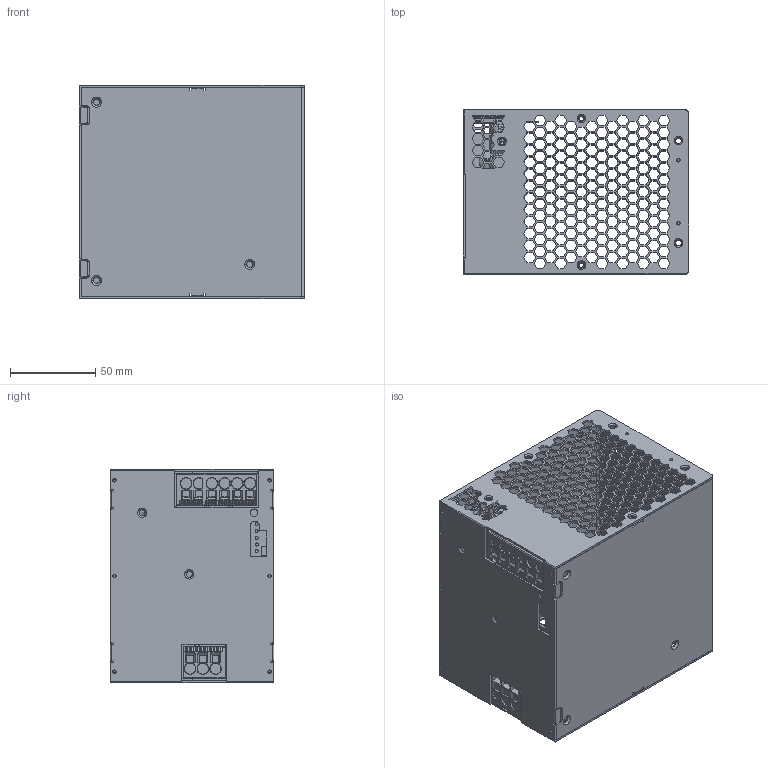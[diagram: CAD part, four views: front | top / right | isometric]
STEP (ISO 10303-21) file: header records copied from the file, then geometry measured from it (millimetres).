
FILE_DESCRIPTION(('Creo Elements/Direct Modeling STEP Export'),'2;1');
FILE_NAME('XDR-960PI.stp','2025-12-17T11:05:24',(''),(''),'Creo Elements/Direct Modeling STEP processor for AP214 (Solid Model)','Creo Elements/Direct Modeling 19.0G 27-Nov-2017 (C) Parametric Technology GmbH','');
FILE_SCHEMA(('AUTOMOTIVE_DESIGN { 1 0 10303 214 1 1 1 1 }'));
Length unit declared in the file: millimetre
Products named in the file (191): BOARD.PRT; MPX410H-7508033701_______3D_2_1.PRT; MPX410H-7508033701_______3D_2_2.PRT; MPX410H-7508033701_______3D_2_3.PRT; MPX410H-7508033701_______3D_202.ASM; TB1.ASM; EXTRUDED-62456.PRT; 990316272.ASM; EXTRUDED-62828.PRT; 990316432.ASM; EXTRUDED-63200.PRT; 990314032.ASM.6; D103.ASM; 2CUX-DBV-5_SOT23-5_.PRT; U104.ASM; 788750152_1.PRT; 788750152_2.PRT; 788750152_3.PRT; 788750152_4.PRT; 788750152.ASM; R137.ASM; 788754864_1.PRT; 788754864_2.PRT; 788754864_3.PRT; 788754864_4.PRT; 788754864.ASM; R128.ASM; R127.ASM; 788750304_1.PRT; 788750304_2.PRT; 788750304_3.PRT; 788750304_4.PRT; 788750304.ASM; R126.ASM; 788754712_1.PRT; 788754712_2.PRT; 788754712_3.PRT; 788754712_4.PRT; 788754712.ASM; R125.ASM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
Assembly tree (255 placements, depth 6):
  PI
    MPX410H-7508043701_20241017.PRT.1.1.1
    XDR-960CASE.1
      NSDR-960机壳.stp
        装配1
          SDR-120_-___.stp
            上盖-20241127
          下盖
            下盖-L20241127
            下盖-R20241127
    XDR-960API-R1X.step
      PCB.ASM
        CN3.ASM
          990313712.ASM.9  x3
            EXTRUDED-337676.PRT
          990313872.ASM.10  x3
            EXTRUDED-338048.PRT
          990313552.ASM.4  x3
            EXTRUDED-336982.PRT
        JP2.ASM
          K94.ASM
            F1.PRT
        JP1.ASM
          K94.ASM
            F1.PRT
        D13.ASM
          2ARD-SURGE_ARRESTER_4072498801.ASM  x2
            EXTRUDED-284635.PRT
          2ARD-SURGE_ARRESTER.ASM
            EXTRUDED-282235.PRT
        C30.ASM
          1BC1-Y-L140W040-P100.PRT
        C23.ASM
          1BC1-Y-L140W040-P100.PRT
        C22.ASM
          1BC1-Y-L140W040-P100.PRT
        D6.ASM
          2ARD-SURGE_ARRESTER_4072498801.ASM  x2
            EXTRUDED-284635.PRT
          2ARD-SURGE_ARRESTER.ASM
            EXTRUDED-282235.PRT
        D4.ASM
          2ARD-SURGE_ARRESTER_4072498801.ASM  x2
            EXTRUDED-284635.PRT
          2ARD-SURGE_ARRESTER.ASM
            EXTRUDED-282235.PRT
        D11.ASM
          2ARD-SURGE_ARRESTER_4072498801.ASM  x2
            EXTRUDED-284635.PRT
          2ARD-SURGE_ARRESTER.ASM
            EXTRUDED-282235.PRT
        D3.ASM
          2ARD-SURGE_ARRESTER_4072498801.ASM  x2
            EXTRUDED-284635.PRT
          2ARD-SURGE_ARRESTER.ASM
            EXTRUDED-282235.PRT
        U14.ASM
          2CUX-SOIC8.PRT
        U13.ASM
          990314192.ASM
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Bounding box: 132 x 96 x 125.2 mm (x, y, z)
Volume: 146997 mm3; surface area: 197829.8 mm2
Topology: 168 solids, 172 shells, 8348 faces, 23267 edges, 15216 vertices
Faces by surface type: plane 5669, cylinder 1262, extrusion 778, sphere 239, torus 209, cone 146, bspline 40, revolution 5
Entity records: 232925 total; most frequent: CARTESIAN_POINT 60879, ORIENTED_EDGE 33914, DIRECTION 28298, EDGE_CURVE 16960, VECTOR 13579, LINE 13115, VERTEX_POINT 11177, EDGE_LOOP 7358
